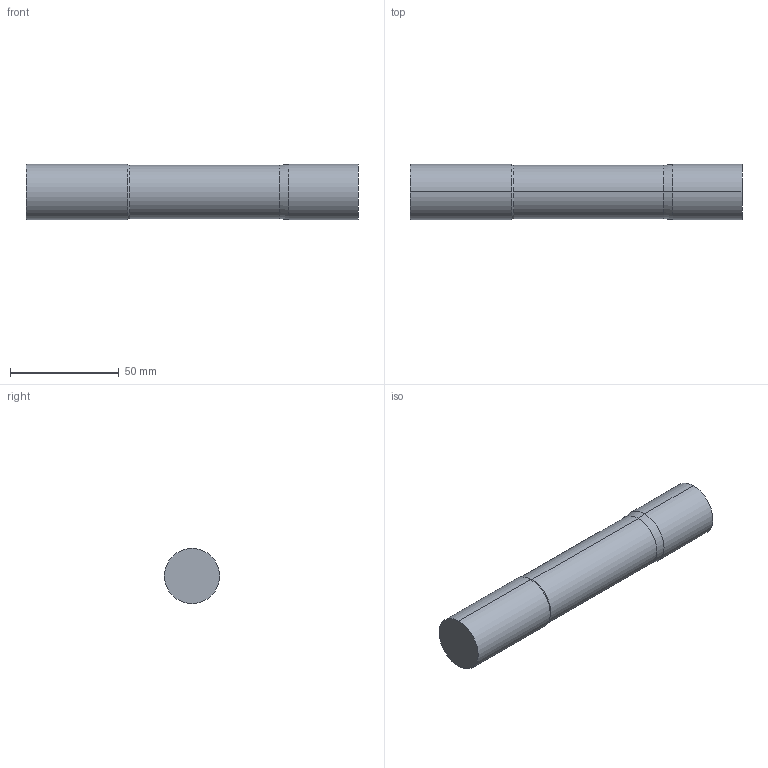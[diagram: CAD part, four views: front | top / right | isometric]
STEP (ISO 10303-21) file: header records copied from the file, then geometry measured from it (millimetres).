
FILE_DESCRIPTION (( 'STEP AP214' ), '1' );
FILE_NAME ('SSIRNX71000-000.STEP', '2025-05-30T15:14:54', ( '' ), ( '' ), 'SwSTEP 2.0', 'SolidWorks 2023', '' );
FILE_SCHEMA (( 'AUTOMOTIVE_DESIGN' ));
Length unit declared in the file: inch
Products named in the file (3): SSI7 Cut Only_SSIRNX71000-000; SSIRNX71000-000; SSI7 Shank Only_SSIRNX71000-000
Assembly tree (2 placements, depth 2):
  SSIRNX71000-000
    SSI7 Cut Only_SSIRNX71000-000
    SSI7 Shank Only_SSIRNX71000-000
Bounding box: 152.4 x 25.4 x 25.4 mm (x, y, z)
Volume: 74385.3 mm3; surface area: 13973 mm2
Topology: 2 solids, 2 shells, 14 faces, 24 edges, 14 vertices
Faces by surface type: cylinder 6, plane 4, cone 4
Entity records: 432 total; most frequent: DIRECTION 76, CARTESIAN_POINT 57, ORIENTED_EDGE 48, AXIS2_PLACEMENT_3D 33, EDGE_CURVE 24, ADVANCED_FACE 14, CIRCLE 14, FACE_OUTER_BOUND 14
